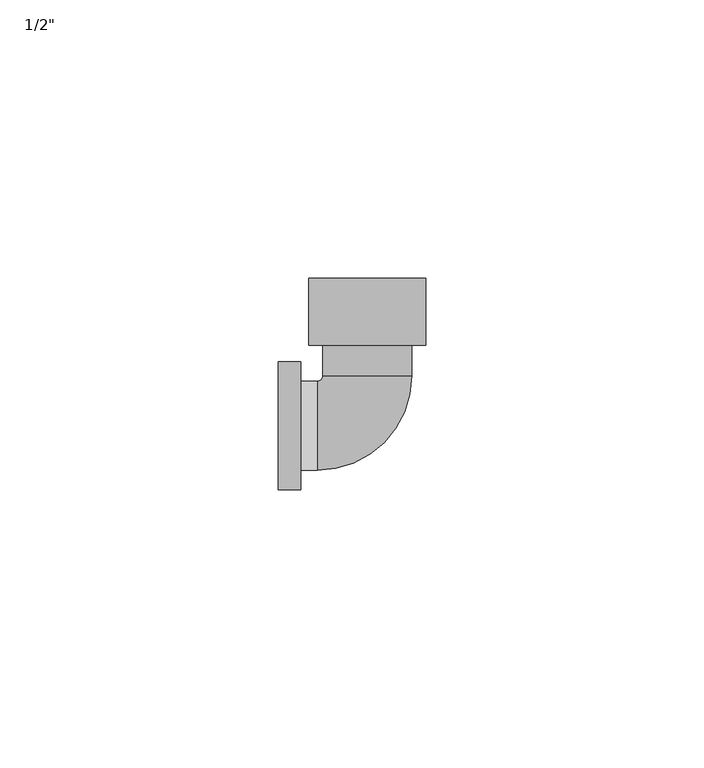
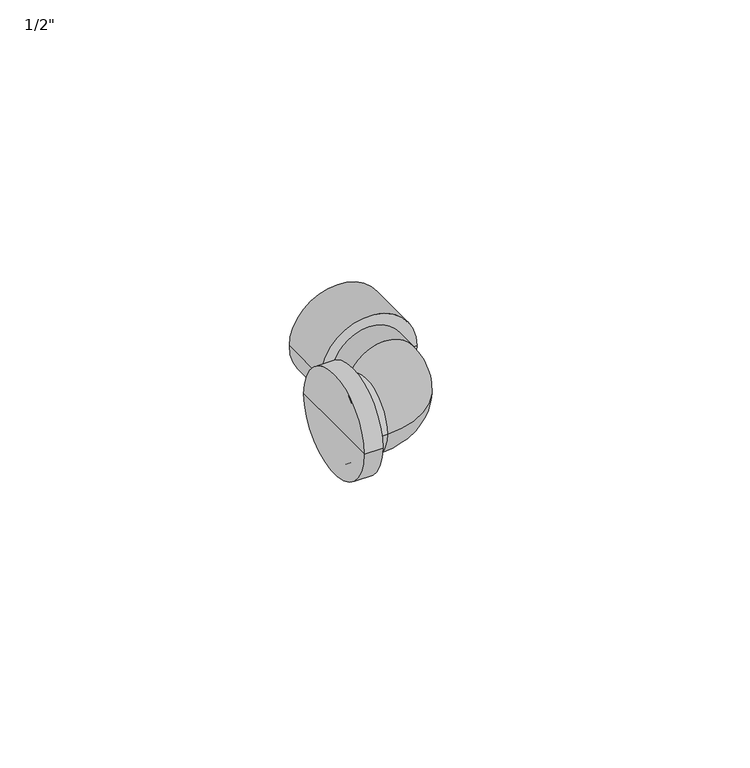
"""IFC4 building model written with IfcOpenShell, lengths in millimetres: pipe fitting geometry."""

from ifc_helpers import new_model, si_unit, point, frame, origin, place, context, project, spatial, circle_curve, ellipse_curve, trimmed, source, transform, mapped, element, save
from ifc_brep_helpers import plane_surface, cylinder_surface, revolved_surface, advanced_brep


def pipe_fitting_c6b296b3(model_context):
    return source(origin(), model_context, "Body", "AdvancedBrep", [
        advanced_brep(
        [(-16.0, -11.5, 0.0), (-16.0, 11.5, 0.0), (-12.0, 11.5, 0.0), (-12.0, -11.5, 0.0), (-16.0, 0.0, 0.0), (-12.0, 0.0, 0.0)],
        [
            (0, 1, circle_curve(frame((-16.0, 0.0, 0.0), z_axis=(1.0, 0.0, 0.0), x_axis=(0.0, 1.0, 0.0)), 11.5)),
            (1, 2),
            (2, 3, circle_curve(frame((-12.0, 0.0, 0.0), z_axis=(-1.0, 0.0, 0.0), x_axis=(0.0, 1.0, 0.0)), 11.5)),
            (3, 0),
            (1, 0, circle_curve(frame((-16.0, 0.0, 0.0), z_axis=(1.0, 0.0, 0.0), x_axis=(0.0, 1.0, 0.0)), 11.5)),
            (3, 2, circle_curve(frame((-12.0, 0.0, 0.0), z_axis=(-1.0, 0.0, 0.0), x_axis=(0.0, 1.0, 0.0)), 11.5)),
            (4, 1),
            (0, 4),
            (2, 5),
            (5, 3),
        ],
        [
            cylinder_surface(frame((2000.0, 0.0, 0.0), z_axis=(-1.0, 0.0, 0.0), x_axis=(0.0, 1.0, 0.0)), 11.5),
            plane_surface(frame((-16.0, 0.0, 0.0), z_axis=(-1.0, 0.0, 0.0), x_axis=(0.0, 1.0, 0.0))),
            plane_surface(frame((-12.0, 0.0, 0.0), z_axis=(1.0, 0.0, 0.0), x_axis=(0.0, 1.0, 0.0))),
        ],
        [
            (0, [[1, 2, 3, 4]]),
            (0, [[5, -4, 6, -2]]),
            (1, [[7, -1, 8]]),
            (1, [[-8, -5, -7]]),
            (2, [[-3, 9, 10]]),
            (2, [[-6, -10, -9]]),
        ],
    ),
        advanced_brep(
        [(-8.0, 14.5, 0.0), (8.0, 14.5, 0.0), (-16.0, 8.0, 0.0), (-16.0, -8.0, 0.0), (-9.0, -8.0, 0.0), (-9.0, 8.0, 0.0), (-8.0, 9.0, 0.0), (8.0, 9.0, 0.0)],
        [
            (0, 1, circle_curve(frame((0.0, 14.5, 0.0), z_axis=(0.0, 1.0, 0.0), x_axis=(1.0, 0.0, 0.0)), 8.0)),
            (1, 0, circle_curve(frame((0.0, 14.5, 0.0), z_axis=(0.0, 1.0, 0.0), x_axis=(1.0, 0.0, 0.0)), 8.0)),
            (2, 3, circle_curve(frame((-16.0, 0.0, 0.0), z_axis=(-1.0, 0.0, 0.0), x_axis=(0.0, -1.0, 0.0)), 8.0)),
            (3, 2, circle_curve(frame((-16.0, 0.0, 0.0), z_axis=(-1.0, 0.0, 0.0), x_axis=(0.0, -1.0, 0.0)), 8.0)),
            (4, 5, circle_curve(frame((-9.0, 0.0, 0.0), z_axis=(-1.0, 0.0, 0.0), x_axis=(0.0, -1.0, 0.0)), 8.0)),
            (5, 2),
            (3, 4),
            (5, 4, circle_curve(frame((-9.0, 0.0, 0.0), z_axis=(-1.0, 0.0, 0.0), x_axis=(0.0, -1.0, 0.0)), 8.0)),
            (0, 6),
            (6, 7, circle_curve(frame((0.0, 9.0, 0.0), z_axis=(0.0, 1.0, 0.0), x_axis=(1.0, 0.0, 0.0)), 8.0)),
            (7, 1),
            (7, 6, circle_curve(frame((0.0, 9.0, 0.0), z_axis=(0.0, 1.0, 0.0), x_axis=(1.0, 0.0, 0.0)), 8.0)),
            (4, 7, circle_curve(frame((-9.0, 9.0, 0.0), z_axis=(0.0, 0.0, 1.0), x_axis=(1.0, 0.0, 0.0)), 17.0)),
            (6, 5, circle_curve(frame((-9.0, 9.0, 0.0), z_axis=(0.0, 0.0, -1.0), x_axis=(1.0, 0.0, 0.0)), 1.0)),
        ],
        [
            plane_surface(frame((0.0, 14.5, 0.0), z_axis=(0.0, 1.0, 0.0), x_axis=(0.0, 0.0, 1.0))),
            plane_surface(frame((-16.0, 0.0, 0.0), z_axis=(-1.0, 0.0, 0.0), x_axis=(0.0, 0.0, 1.0))),
            cylinder_surface(frame((-9.0, 0.0, 0.0), z_axis=(1.0, 0.0, 0.0), x_axis=(0.0, -1.0, 0.0)), 8.0),
            cylinder_surface(frame((0.0, 14.5, 0.0), z_axis=(0.0, 1.0, 0.0), x_axis=(1.0, 0.0, 0.0)), 8.0),
            revolved_surface(trimmed(ellipse_curve(frame((0.0, 9.0, 0.0), z_axis=(0.0, 1.0, 0.0), x_axis=(1.0, 0.0, 0.0)), 8.0, 8.0), [point((-8.0, 9.0, 0.0))], [point((8.0, 9.0, 0.0))], True, "CARTESIAN"), (-9.0, 9.0, 0.0), (0.0, 0.0, -1.0)),
            revolved_surface(trimmed(ellipse_curve(frame((0.0, 9.0, 0.0), z_axis=(0.0, 1.0, 0.0), x_axis=(1.0, 0.0, 0.0)), 8.0, 8.0), [point((8.0, 9.0, 0.0))], [point((-8.0, 9.0, 0.0))], True, "CARTESIAN"), (-9.0, 9.0, 0.0), (0.0, 0.0, -1.0)),
        ],
        [
            (0, [[1, 2]]),
            (1, [[3, 4]]),
            (2, [[5, 6, -4, 7]]),
            (2, [[8, -7, -3, -6]]),
            (3, [[-1, 9, 10, 11]]),
            (3, [[-2, -11, 12, -9]]),
            (4, [[13, -10, 14, -5]]),
            (5, [[-14, -12, -13, -8]]),
        ],
    ),
        advanced_brep(
        [(0.0, 26.5, 0.0), (10.5, 26.5, 0.0), (-10.5, 26.5, 0.0), (-10.5, 14.5, 0.0), (10.5, 14.5, 0.0), (0.0, 14.5, 0.0)],
        [
            (0, 1),
            (1, 2, circle_curve(frame((0.0, 26.5, 0.0), z_axis=(0.0, 1.0, 0.0), x_axis=(1.0, 0.0, 0.0)), 10.5)),
            (2, 0),
            (2, 1, circle_curve(frame((0.0, 26.5, 0.0), z_axis=(0.0, 1.0, 0.0), x_axis=(1.0, 0.0, 0.0)), 10.5)),
            (3, 4, circle_curve(frame((0.0, 14.5, 0.0), z_axis=(0.0, -1.0, 0.0), x_axis=(1.0, 0.0, 0.0)), 10.5)),
            (4, 5),
            (5, 3),
            (4, 3, circle_curve(frame((0.0, 14.5, 0.0), z_axis=(0.0, -1.0, 0.0), x_axis=(1.0, 0.0, 0.0)), 10.5)),
            (1, 4),
            (3, 2),
        ],
        [
            plane_surface(frame((0.0, 26.5, 0.0), z_axis=(0.0, 1.0, 0.0), x_axis=(1.0, 0.0, 0.0))),
            plane_surface(frame((0.0, 14.5, 0.0), z_axis=(0.0, -1.0, 0.0), x_axis=(1.0, 0.0, 0.0))),
            cylinder_surface(frame((0.0, 1997.5, 0.0), z_axis=(0.0, 1.0, 0.0), x_axis=(1.0, 0.0, 0.0)), 10.5),
        ],
        [
            (0, [[1, 2, 3]]),
            (0, [[-3, 4, -1]]),
            (1, [[5, 6, 7]]),
            (1, [[8, -7, -6]]),
            (2, [[-2, 9, -5, 10]]),
            (2, [[-4, -10, -8, -9]]),
        ],
    ),
    ])


if __name__ == "__main__":
    model = new_model("IFC4")
    model_context = context("Model", 3, world=origin())
    ifc_project = project(units=[si_unit("LENGTHUNIT", "METRE", prefix="MILLI")], contexts=[model_context])
    site = spatial("IfcSite", under=ifc_project)
    building = spatial("IfcBuilding", under=site)
    placement = place(None, origin())
    pipe_fitting_shape = pipe_fitting_c6b296b3(model_context)
    element("IfcPipeFitting", 1, ObjectType="KAN-therm Push kolano mosiężne gz : 1/2\"", at=placement, inside=building, context=model_context, shape_type="MappedRepresentation", body=[
        mapped(pipe_fitting_shape, transform((0.0, 0.0, 0.0), x_axis=(1.0, 0.0, 0.0), y_axis=(0.0, 1.0, 0.0), z_axis=(0.0, 0.0, 1.0))),
    ])
    save(model, "model.ifc")
